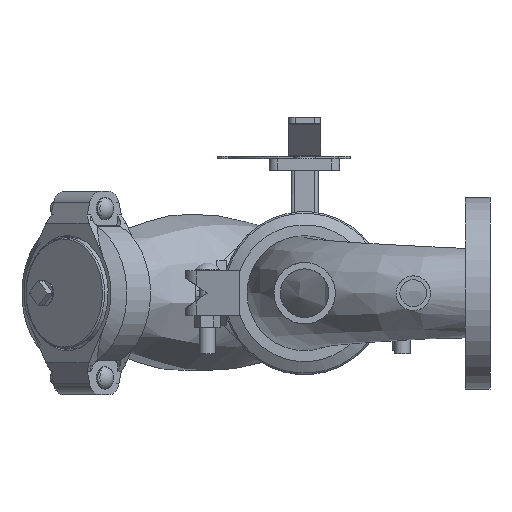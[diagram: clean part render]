
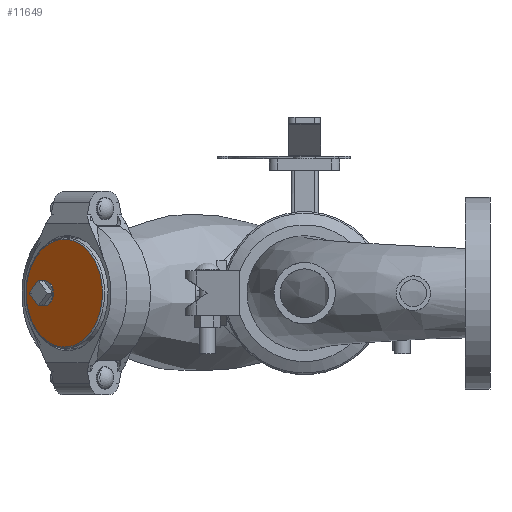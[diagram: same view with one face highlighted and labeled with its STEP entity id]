
A CAD part, front view. The second image highlights one B-rep face of the part: STEP entity #11649.
In plain terms, the highlighted planar face has unit normal (-0.707, -0.707, 0) as drawn and (1, 0, 0) by its records, which use the part's own axes.
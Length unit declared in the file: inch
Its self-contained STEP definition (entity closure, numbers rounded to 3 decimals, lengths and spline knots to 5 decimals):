
#2300=FACE_BOUND('',#3332,.T.);
#2651=FACE_OUTER_BOUND('',#3331,.T.);
#3331=EDGE_LOOP('',(#8520,#8521));
#3332=EDGE_LOOP('',(#8522));
#4016=CIRCLE('',#12828,0.5);
#4024=CIRCLE('',#12839,2.107);
#4025=CIRCLE('',#12840,2.107);
#4864=VERTEX_POINT('',#21940);
#4872=VERTEX_POINT('',#21961);
#4873=VERTEX_POINT('',#21962);
#6186=EDGE_CURVE('',#4864,#4864,#4016,.T.);
#6195=EDGE_CURVE('',#4872,#4873,#4024,.T.);
#6196=EDGE_CURVE('',#4873,#4872,#4025,.T.);
#8520=ORIENTED_EDGE('',*,*,#6195,.T.);
#8521=ORIENTED_EDGE('',*,*,#6196,.T.);
#8522=ORIENTED_EDGE('',*,*,#6186,.T.);
#10527=PLANE('',#12842);
#11649=ADVANCED_FACE('',(#2651,#2300),#10527,.T.);
#12828=AXIS2_PLACEMENT_3D('',#21942,#15031,#15032);
#12839=AXIS2_PLACEMENT_3D('',#21963,#15054,#15055);
#12840=AXIS2_PLACEMENT_3D('',#21964,#15056,#15057);
#12842=AXIS2_PLACEMENT_3D('',#21966,#15060,#15061);
#15031=DIRECTION('center_axis',(-1.,0.,0.));
#15032=DIRECTION('ref_axis',(0.,0.,1.));
#15054=DIRECTION('center_axis',(1.,0.,0.));
#15055=DIRECTION('ref_axis',(0.,0.,-1.));
#15056=DIRECTION('center_axis',(1.,0.,0.));
#15057=DIRECTION('ref_axis',(0.,0.,-1.));
#15060=DIRECTION('center_axis',(1.,0.,0.));
#15061=DIRECTION('ref_axis',(0.,0.,-1.));
#21940=CARTESIAN_POINT('',(1.13,1.1,-0.5));
#21942=CARTESIAN_POINT('Origin',(1.13,1.1,0.));
#21961=CARTESIAN_POINT('',(1.13,2.107,0.));
#21962=CARTESIAN_POINT('',(1.13,0.,2.107));
#21963=CARTESIAN_POINT('Origin',(1.13,0.,0.));
#21964=CARTESIAN_POINT('Origin',(1.13,0.,0.));
#21966=CARTESIAN_POINT('Origin',(1.13,0.,0.));
